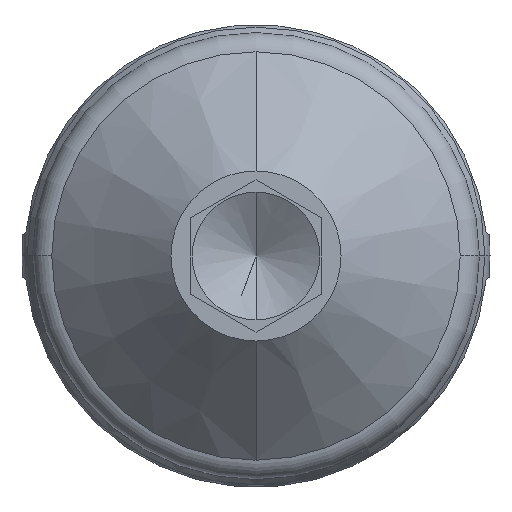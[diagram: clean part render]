
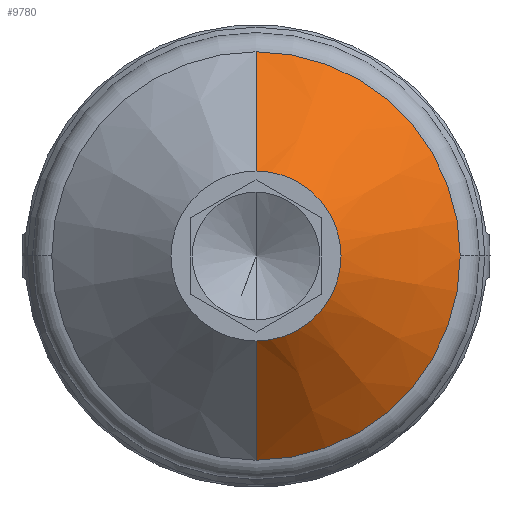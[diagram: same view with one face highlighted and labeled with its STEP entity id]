
A CAD part, front view. The second image highlights one B-rep face of the part: STEP entity #9780.
In plain terms, the highlighted conical face has half-angle 47 degrees and reference radius 9.6 mm.
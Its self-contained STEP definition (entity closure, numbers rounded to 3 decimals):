
#226 = DIRECTION ( 'NONE',  ( 0., 0., 1. ) ) ;
#1290 = ORIENTED_EDGE ( 'NONE', *, *, #6103, .F. ) ;
#1607 = CIRCLE ( 'NONE', #3893, 9.6 ) ;
#1699 = CARTESIAN_POINT ( 'NONE',  ( 0., 5.222, -9.6 ) ) ;
#1847 = DIRECTION ( 'NONE',  ( 0., 0., 1. ) ) ;
#1997 = VERTEX_POINT ( 'NONE', #1699 ) ;
#2402 = CARTESIAN_POINT ( 'NONE',  ( 0., 0., 0. ) ) ;
#2552 = EDGE_CURVE ( 'NONE', #2758, #1997, #1607, .T. ) ;
#2758 = VERTEX_POINT ( 'NONE', #5100 ) ;
#2871 = CARTESIAN_POINT ( 'NONE',  ( 0., 0., -4. ) ) ;
#2888 = ORIENTED_EDGE ( 'NONE', *, *, #3185, .T. ) ;
#3185 = EDGE_CURVE ( 'NONE', #4918, #7248, #6329, .T. ) ;
#3227 = DIRECTION ( 'NONE',  ( 0., 0., 1. ) ) ;
#3408 = CARTESIAN_POINT ( 'NONE',  ( 0., 5.222, 0. ) ) ;
#3691 = LINE ( 'NONE', #5808, #5031 ) ;
#3738 = VECTOR ( 'NONE', #10040, 1000. ) ;
#3893 = AXIS2_PLACEMENT_3D ( 'NONE', #3408, #7220, #226 ) ;
#4100 = LINE ( 'NONE', #6226, #3738 ) ;
#4252 = FACE_OUTER_BOUND ( 'NONE', #8128, .T. ) ;
#4268 = DIRECTION ( 'NONE',  ( 0., 0.682, -0.731 ) ) ;
#4918 = VERTEX_POINT ( 'NONE', #7024 ) ;
#5031 = VECTOR ( 'NONE', #4268, 1000. ) ;
#5100 = CARTESIAN_POINT ( 'NONE',  ( 0., 5.222, 9.6 ) ) ;
#5356 = CONICAL_SURFACE ( 'NONE', #6764, 9.6, 0.82 ) ;
#5745 = CARTESIAN_POINT ( 'NONE',  ( 0., 5.222, 0. ) ) ;
#5808 = CARTESIAN_POINT ( 'NONE',  ( 0., 5.222, -9.6 ) ) ;
#6103 = EDGE_CURVE ( 'NONE', #4918, #2758, #4100, .T. ) ;
#6226 = CARTESIAN_POINT ( 'NONE',  ( 0., 5.222, 9.6 ) ) ;
#6329 = CIRCLE ( 'NONE', #8662, 4. ) ;
#6483 = DIRECTION ( 'NONE',  ( 0., 1., 0. ) ) ;
#6764 = AXIS2_PLACEMENT_3D ( 'NONE', #5745, #6483, #1847 ) ;
#6896 = ORIENTED_EDGE ( 'NONE', *, *, #2552, .F. ) ;
#7024 = CARTESIAN_POINT ( 'NONE',  ( 0., 0., 4. ) ) ;
#7117 = DIRECTION ( 'NONE',  ( 0., 1., 0. ) ) ;
#7220 = DIRECTION ( 'NONE',  ( 0., 1., 0. ) ) ;
#7248 = VERTEX_POINT ( 'NONE', #2871 ) ;
#7668 = EDGE_CURVE ( 'NONE', #7248, #1997, #3691, .T. ) ;
#8128 = EDGE_LOOP ( 'NONE', ( #2888, #8561, #6896, #1290 ) ) ;
#8561 = ORIENTED_EDGE ( 'NONE', *, *, #7668, .T. ) ;
#8662 = AXIS2_PLACEMENT_3D ( 'NONE', #2402, #7117, #3227 ) ;
#9780 = ADVANCED_FACE ( 'NONE', ( #4252 ), #5356, .T. ) ;
#10040 = DIRECTION ( 'NONE',  ( 0., 0.682, 0.731 ) ) ;
